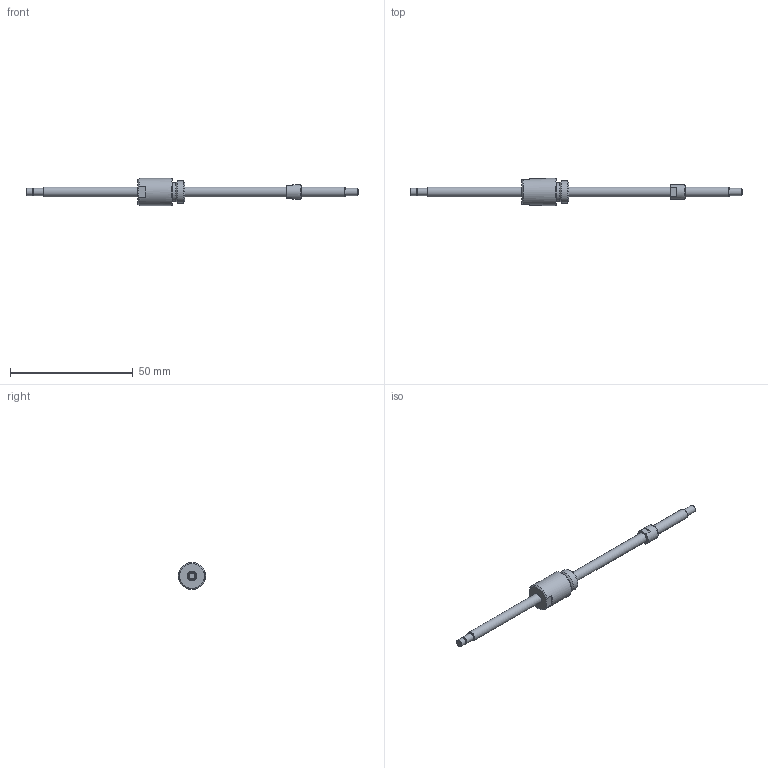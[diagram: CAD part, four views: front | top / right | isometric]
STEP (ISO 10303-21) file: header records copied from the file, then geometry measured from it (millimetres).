
FILE_DESCRIPTION(/* description */ ('STEP AP214'),/* implementation_level */ '2;1');
FILE_NAME(/* name */ 'NSG0401-096R135C5B0X(38.5)',/* time_stamp */ '2026-08-20T15:45:37+02:00',/* author */ ('License CC BY-ND 4.0'),/* organization */ ('CADENAS'),/* preprocessor_version */ 'ST-DEVELOPER v20',/* originating_system */ 'PARTsolutions',/* authorisation */ ' ');
FILE_SCHEMA (('AUTOMOTIVE_DESIGN {1 0 10303 214 3 1 1}'));
Length unit declared in the file: millimetre
Products named in the file (3): NSG0401-096R135C5B0X(38.5); NSG0401-96R135C3B_shaft; NSG0401_nut
Assembly tree (2 placements, depth 2):
  NSG0401-096R135C5B0X(38.5)
    NSG0401-96R135C3B_shaft
    NSG0401_nut
Bounding box: 135 x 11 x 11 mm (x, y, z)
Volume: 3081.9 mm3; surface area: 2767.4 mm2
Topology: 2 solids, 2 shells, 41 faces, 78 edges, 48 vertices
Faces by surface type: plane 19, cylinder 11, cone 10, torus 1
Full cylindrical faces by diameter (mm): 2.7 x1, 3 x3, 4 x3, 6 x1, 7.7 x1, 9 x1, 11 x1
Entity records: 999 total; most frequent: DIRECTION 178, CARTESIAN_POINT 158, ORIENTED_EDGE 112, AXIS2_PLACEMENT_3D 82, EDGE_LOOP 70, FACE_BOUND 70, EDGE_CURVE 56, VERTEX_POINT 46
